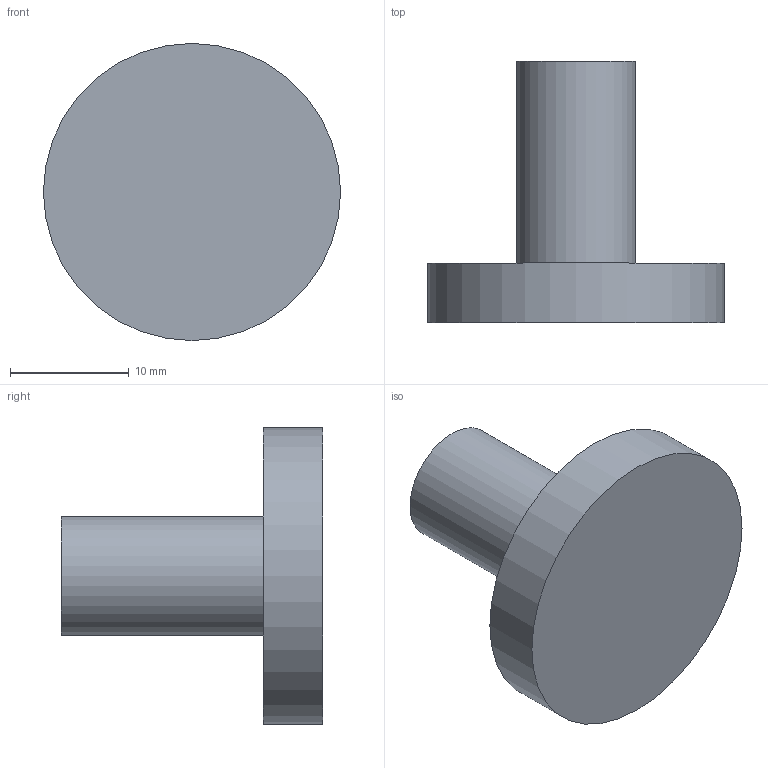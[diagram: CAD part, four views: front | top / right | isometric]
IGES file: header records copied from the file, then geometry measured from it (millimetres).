
Start section: Data from Parasolid IGES Translator 15.0.47, Copyright(c) 2006 Siemens P LM Software. All Rights Reserved.
Global section: file name: 9070568.igs; native system:  By UGS Corp.; preprocessor: XPlus GENERIC/IGES 3.0; author: Noname; organization: Noname; date: 20140122.135406; units: millimetre
Bounding box: 25 x 22 x 25 mm (x, y, z)
Surface area: 2034.2 mm2 (no closed solid volume)
Topology: 0 solids, 0 shells, 7 faces, 18 edges, 14 vertices
Faces by surface type: extrusion 4, revolution 3
